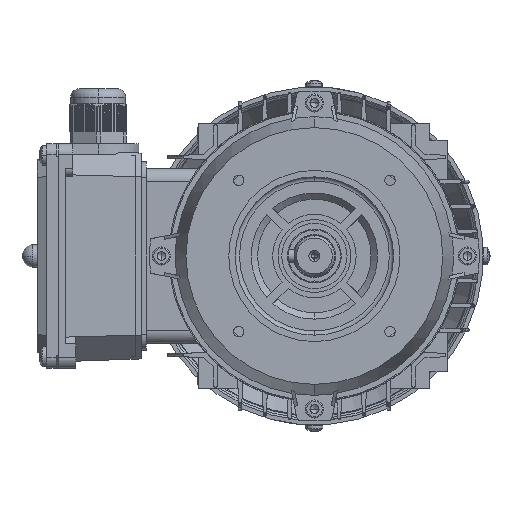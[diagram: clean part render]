
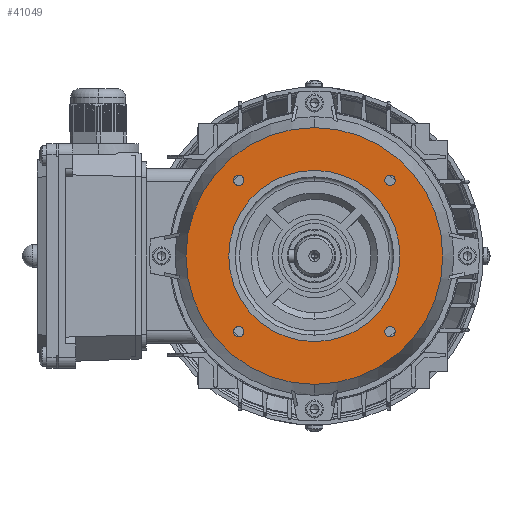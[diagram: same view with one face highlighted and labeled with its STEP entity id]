
A CAD part, left-side view. The second image highlights one B-rep face of the part: STEP entity #41049.
In plain terms, the highlighted planar face has unit normal (-1, 0, 0).
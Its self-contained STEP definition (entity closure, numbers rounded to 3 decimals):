
#3264 = DIRECTION ( 'NONE',  ( 1., 0., 0. ) ) ;
#4447 = DIRECTION ( 'NONE',  ( 1., 0., 0. ) ) ;
#5137 = CARTESIAN_POINT ( 'NONE',  ( -30., -32.897, -35.355 ) ) ;
#5724 = DIRECTION ( 'NONE',  ( 1., 0., 0. ) ) ;
#6012 = EDGE_CURVE ( 'NONE', #47941, #55806, #26828, .T. ) ;
#7184 = CARTESIAN_POINT ( 'NONE',  ( -30., 0., 0. ) ) ;
#8137 = FACE_OUTER_BOUND ( 'NONE', #97607, .T. ) ;
#8157 = AXIS2_PLACEMENT_3D ( 'NONE', #62205, #5724, #44602 ) ;
#9063 = ORIENTED_EDGE ( 'NONE', *, *, #87889, .T. ) ;
#10826 = AXIS2_PLACEMENT_3D ( 'NONE', #7184, #25402, #84912 ) ;
#10857 = DIRECTION ( 'NONE',  ( 1., 0., 0. ) ) ;
#11532 = EDGE_CURVE ( 'NONE', #102584, #86116, #16832, .T. ) ;
#12790 = EDGE_CURVE ( 'NONE', #122813, #95544, #115115, .T. ) ;
#16832 = CIRCLE ( 'NONE', #78904, 2.459 ) ;
#18014 = ORIENTED_EDGE ( 'NONE', *, *, #11532, .T. ) ;
#20639 = CIRCLE ( 'NONE', #60706, 40. ) ;
#20832 = CARTESIAN_POINT ( 'NONE',  ( -30., 0., 60. ) ) ;
#22098 = CARTESIAN_POINT ( 'NONE',  ( -30., -37.814, 35.355 ) ) ;
#22232 = CIRCLE ( 'NONE', #88289, 2.459 ) ;
#22366 = CIRCLE ( 'NONE', #80372, 2.459 ) ;
#22959 = CARTESIAN_POINT ( 'NONE',  ( -30., 0., -60. ) ) ;
#24511 = CARTESIAN_POINT ( 'NONE',  ( -30., -35.355, 35.355 ) ) ;
#25402 = DIRECTION ( 'NONE',  ( 1., 0., 0. ) ) ;
#26828 = CIRCLE ( 'NONE', #104876, 60. ) ;
#27184 = ORIENTED_EDGE ( 'NONE', *, *, #27742, .T. ) ;
#27358 = EDGE_LOOP ( 'NONE', ( #94913, #61380 ) ) ;
#27742 = EDGE_CURVE ( 'NONE', #49216, #56843, #84258, .T. ) ;
#28704 = EDGE_CURVE ( 'NONE', #95544, #122813, #22232, .T. ) ;
#30885 = CIRCLE ( 'NONE', #10826, 40. ) ;
#32665 = DIRECTION ( 'NONE',  ( 0., 1., 0. ) ) ;
#33017 = DIRECTION ( 'NONE',  ( 0., 0., 1. ) ) ;
#33527 = CARTESIAN_POINT ( 'NONE',  ( -30., 35.355, 35.355 ) ) ;
#35113 = FACE_BOUND ( 'NONE', #62436, .T. ) ;
#35446 = CIRCLE ( 'NONE', #99549, 2.459 ) ;
#35459 = EDGE_LOOP ( 'NONE', ( #48731, #37395 ) ) ;
#37395 = ORIENTED_EDGE ( 'NONE', *, *, #123438, .T. ) ;
#37571 = CARTESIAN_POINT ( 'NONE',  ( -30., 37.814, 35.355 ) ) ;
#39726 = ORIENTED_EDGE ( 'NONE', *, *, #6012, .F. ) ;
#41049 = ADVANCED_FACE ( 'NONE', ( #8137, #93411, #92187, #121029, #35113, #54577 ), #45158, .F. ) ;
#41734 = DIRECTION ( 'NONE',  ( 1., 0., 0. ) ) ;
#42189 = DIRECTION ( 'NONE',  ( 0., 1., 0. ) ) ;
#43611 = DIRECTION ( 'NONE',  ( 0., 0., 1. ) ) ;
#44602 = DIRECTION ( 'NONE',  ( 0., 1., 0. ) ) ;
#45158 = PLANE ( 'NONE',  #86252 ) ;
#45783 = CARTESIAN_POINT ( 'NONE',  ( -30., 0., 60. ) ) ;
#47941 = VERTEX_POINT ( 'NONE', #20832 ) ;
#48485 = EDGE_LOOP ( 'NONE', ( #18014, #86106 ) ) ;
#48731 = ORIENTED_EDGE ( 'NONE', *, *, #89242, .T. ) ;
#49216 = VERTEX_POINT ( 'NONE', #52167 ) ;
#51848 = CARTESIAN_POINT ( 'NONE',  ( -30., 0., -40. ) ) ;
#52167 = CARTESIAN_POINT ( 'NONE',  ( -30., 32.897, -35.355 ) ) ;
#52767 = CARTESIAN_POINT ( 'NONE',  ( -30., -35.355, 35.355 ) ) ;
#52793 = DIRECTION ( 'NONE',  ( 0., 1., 0. ) ) ;
#52993 = ORIENTED_EDGE ( 'NONE', *, *, #111302, .F. ) ;
#53901 = CARTESIAN_POINT ( 'NONE',  ( -30., 32.897, 35.355 ) ) ;
#54577 = FACE_BOUND ( 'NONE', #35459, .T. ) ;
#55193 = CARTESIAN_POINT ( 'NONE',  ( -30., -35.355, -35.355 ) ) ;
#55586 = DIRECTION ( 'NONE',  ( 0., 0., 1. ) ) ;
#55806 = VERTEX_POINT ( 'NONE', #22959 ) ;
#56308 = CIRCLE ( 'NONE', #88348, 2.459 ) ;
#56843 = VERTEX_POINT ( 'NONE', #78825 ) ;
#60315 = DIRECTION ( 'NONE',  ( 0., 1., 0. ) ) ;
#60706 = AXIS2_PLACEMENT_3D ( 'NONE', #103822, #85011, #55586 ) ;
#60738 = AXIS2_PLACEMENT_3D ( 'NONE', #33527, #41734, #100011 ) ;
#61380 = ORIENTED_EDGE ( 'NONE', *, *, #12790, .T. ) ;
#62205 = CARTESIAN_POINT ( 'NONE',  ( -30., 35.355, -35.355 ) ) ;
#62436 = EDGE_LOOP ( 'NONE', ( #108144, #27184 ) ) ;
#68777 = CARTESIAN_POINT ( 'NONE',  ( -30., 0., 40. ) ) ;
#72451 = CARTESIAN_POINT ( 'NONE',  ( -30., 35.355, -35.355 ) ) ;
#73395 = DIRECTION ( 'NONE',  ( 1., 0., 0. ) ) ;
#74931 = DIRECTION ( 'NONE',  ( 1., 0., 0. ) ) ;
#76775 = VERTEX_POINT ( 'NONE', #37571 ) ;
#78825 = CARTESIAN_POINT ( 'NONE',  ( -30., 37.814, -35.355 ) ) ;
#78904 = AXIS2_PLACEMENT_3D ( 'NONE', #55193, #4447, #83409 ) ;
#80372 = AXIS2_PLACEMENT_3D ( 'NONE', #96749, #10857, #42189 ) ;
#81586 = DIRECTION ( 'NONE',  ( 1., 0., 0. ) ) ;
#81929 = CARTESIAN_POINT ( 'NONE',  ( -30., 0., 0. ) ) ;
#83098 = AXIS2_PLACEMENT_3D ( 'NONE', #52767, #81586, #60315 ) ;
#83409 = DIRECTION ( 'NONE',  ( 0., 1., 0. ) ) ;
#84020 = DIRECTION ( 'NONE',  ( 0., 1., 0. ) ) ;
#84258 = CIRCLE ( 'NONE', #8157, 2.459 ) ;
#84318 = CIRCLE ( 'NONE', #96373, 60. ) ;
#84891 = VERTEX_POINT ( 'NONE', #68777 ) ;
#84912 = DIRECTION ( 'NONE',  ( 0., 0., 1. ) ) ;
#85011 = DIRECTION ( 'NONE',  ( 1., 0., 0. ) ) ;
#86106 = ORIENTED_EDGE ( 'NONE', *, *, #113102, .T. ) ;
#86116 = VERTEX_POINT ( 'NONE', #108742 ) ;
#86252 = AXIS2_PLACEMENT_3D ( 'NONE', #45783, #73395, #84020 ) ;
#87889 = EDGE_CURVE ( 'NONE', #102988, #76775, #122730, .T. ) ;
#88289 = AXIS2_PLACEMENT_3D ( 'NONE', #24511, #101005, #32665 ) ;
#88348 = AXIS2_PLACEMENT_3D ( 'NONE', #89167, #3264, #52793 ) ;
#89167 = CARTESIAN_POINT ( 'NONE',  ( -30., 35.355, 35.355 ) ) ;
#89242 = EDGE_CURVE ( 'NONE', #84891, #117719, #30885, .T. ) ;
#89940 = CARTESIAN_POINT ( 'NONE',  ( -30., -32.897, 35.355 ) ) ;
#92187 = FACE_BOUND ( 'NONE', #27358, .T. ) ;
#93411 = FACE_BOUND ( 'NONE', #98576, .T. ) ;
#94913 = ORIENTED_EDGE ( 'NONE', *, *, #28704, .T. ) ;
#95544 = VERTEX_POINT ( 'NONE', #89940 ) ;
#96373 = AXIS2_PLACEMENT_3D ( 'NONE', #81929, #118939, #33017 ) ;
#96749 = CARTESIAN_POINT ( 'NONE',  ( -30., -35.355, -35.355 ) ) ;
#97607 = EDGE_LOOP ( 'NONE', ( #39726, #52993 ) ) ;
#97699 = ORIENTED_EDGE ( 'NONE', *, *, #111144, .T. ) ;
#98576 = EDGE_LOOP ( 'NONE', ( #97699, #9063 ) ) ;
#99549 = AXIS2_PLACEMENT_3D ( 'NONE', #72451, #110059, #121942 ) ;
#100011 = DIRECTION ( 'NONE',  ( 0., 1., 0. ) ) ;
#100656 = CARTESIAN_POINT ( 'NONE',  ( -30., 0., 0. ) ) ;
#101005 = DIRECTION ( 'NONE',  ( 1., 0., 0. ) ) ;
#102584 = VERTEX_POINT ( 'NONE', #5137 ) ;
#102988 = VERTEX_POINT ( 'NONE', #53901 ) ;
#103822 = CARTESIAN_POINT ( 'NONE',  ( -30., 0., 0. ) ) ;
#104876 = AXIS2_PLACEMENT_3D ( 'NONE', #100656, #74931, #43611 ) ;
#105336 = EDGE_CURVE ( 'NONE', #56843, #49216, #35446, .T. ) ;
#108144 = ORIENTED_EDGE ( 'NONE', *, *, #105336, .T. ) ;
#108742 = CARTESIAN_POINT ( 'NONE',  ( -30., -37.814, -35.355 ) ) ;
#110059 = DIRECTION ( 'NONE',  ( 1., 0., 0. ) ) ;
#111144 = EDGE_CURVE ( 'NONE', #76775, #102988, #56308, .T. ) ;
#111302 = EDGE_CURVE ( 'NONE', #55806, #47941, #84318, .T. ) ;
#113102 = EDGE_CURVE ( 'NONE', #86116, #102584, #22366, .T. ) ;
#115115 = CIRCLE ( 'NONE', #83098, 2.459 ) ;
#117719 = VERTEX_POINT ( 'NONE', #51848 ) ;
#118939 = DIRECTION ( 'NONE',  ( 1., 0., 0. ) ) ;
#121029 = FACE_BOUND ( 'NONE', #48485, .T. ) ;
#121942 = DIRECTION ( 'NONE',  ( 0., 1., 0. ) ) ;
#122730 = CIRCLE ( 'NONE', #60738, 2.459 ) ;
#122813 = VERTEX_POINT ( 'NONE', #22098 ) ;
#123438 = EDGE_CURVE ( 'NONE', #117719, #84891, #20639, .T. ) ;
